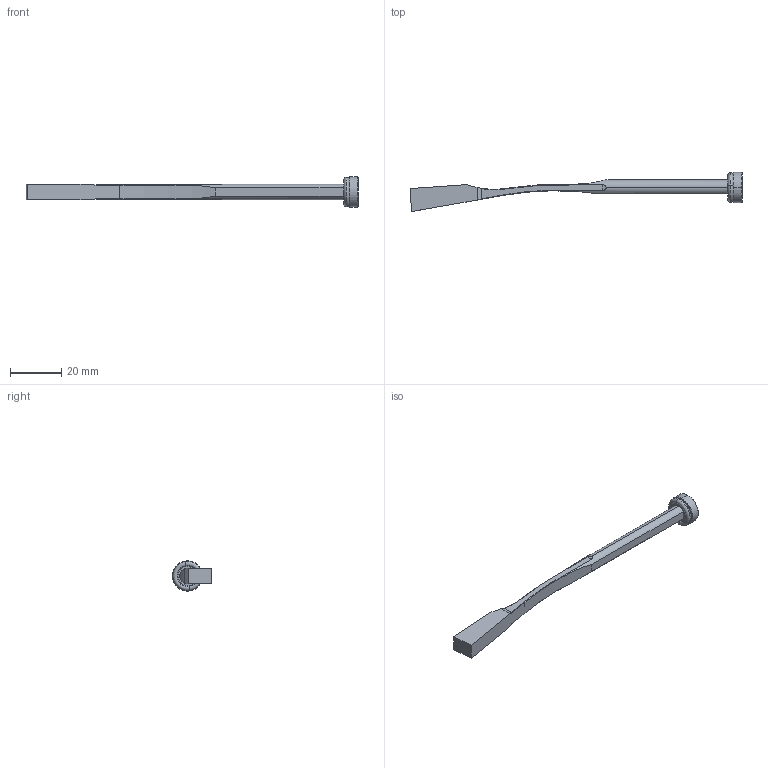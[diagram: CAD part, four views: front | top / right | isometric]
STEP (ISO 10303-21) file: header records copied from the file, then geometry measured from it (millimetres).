
FILE_DESCRIPTION (( 'STEP AP214' ), '1' );
FILE_NAME ('pw060622_ejection.STEP', '2021-07-15T09:03:21', ( '' ), ( '' ), 'SwSTEP 2.0', 'SolidWorks 2019', '' );
FILE_SCHEMA (( 'AUTOMOTIVE_DESIGN' ));
Length unit declared in the file: millimetre
Products named in the file (5): 3JT7.5X2X11.5; pw060622_ejection; 9PW060622; 1DIN7991416_DIN 7991 - M4 x 16 --- 16C; 9FP1205M4
Assembly tree (4 placements, depth 2):
  pw060622_ejection
    9PW060622
    9FP1205M4
    1DIN7991416_DIN 7991 - M4 x 16 --- 16C
    3JT7.5X2X11.5
Bounding box: 129.5 x 15.28 x 11.8 mm (x, y, z)
Volume: 3669.3 mm3; surface area: 3842.4 mm2
Topology: 4 solids, 4 shells, 434 faces, 1156 edges, 754 vertices
Faces by surface type: bspline 250, plane 104, cylinder 50, cone 16, torus 14
Entity records: 24869 total; most frequent: CARTESIAN_POINT 16099, ORIENTED_EDGE 2304, EDGE_CURVE 1152, B_SPLINE_CURVE_WITH_KNOTS 823, DIRECTION 810, VERTEX_POINT 754, EDGE_LOOP 466, ADVANCED_FACE 434
